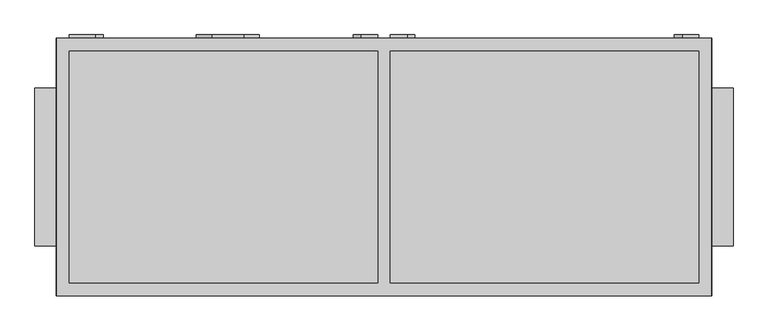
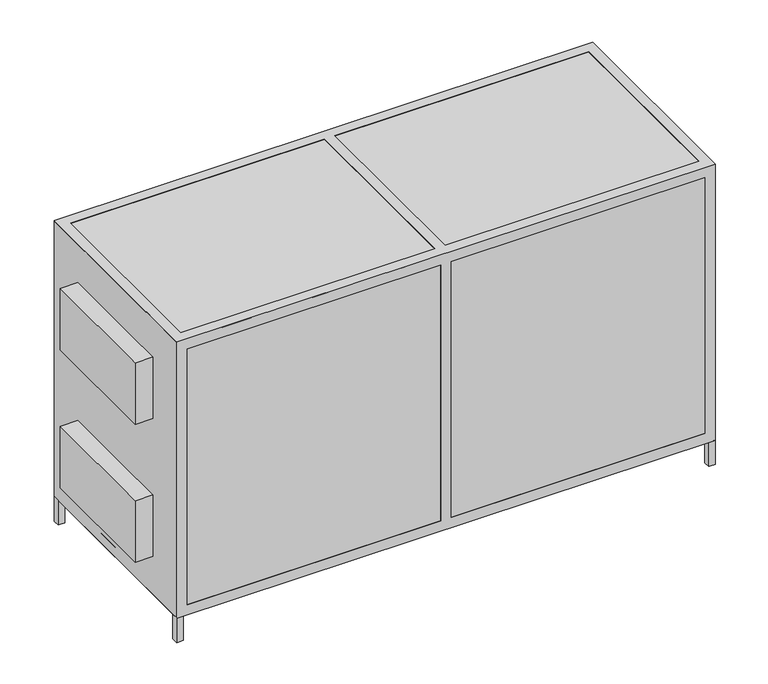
"""IFC4 building model written with IfcOpenShell, lengths in millimetres: proxy geometry, AVS 2200...3800-S-RC(RG)-L : AVS 2200-S-RC-L."""

from ifc_helpers import new_model, si_unit, point, frame, frame_2d, origin, origin_with_axes, place, context, project, spatial, polyline, circle_curve, trimmed, segment, composite_curve, outline, extrude, faceted_brep, source, transform, mapped, element, save


def mechanical_equipment_792a2d4f(model_context):
    return source(origin(), model_context, "Body", "SolidModel", [
        extrude(outline(polyline([(1010.0, 407.0), (1035.0, 407.0), (1035.0, 382.0), (1010.0, 382.0), (1010.0, 407.0)])), origin_with_axes(), (0.0, 0.0, 1.0), 100.0),
        extrude(outline(polyline([(1010.0, -407.0), (1010.0, -382.0), (1035.0, -382.0), (1035.0, -407.0), (1010.0, -407.0)])), origin_with_axes(), (0.0, 0.0, 1.0), 100.0),
        extrude(outline(polyline([(-1035.0, 382.0), (-1035.0, 407.0), (-1010.0, 407.0), (-1010.0, 382.0), (-1035.0, 382.0)])), origin_with_axes(), (0.0, 0.0, 1.0), 100.0),
        extrude(outline(polyline([(-1035.0, -382.0), (-1010.0, -382.0), (-1010.0, -407.0), (-1035.0, -407.0), (-1035.0, -382.0)])), origin_with_axes(), (0.0, 0.0, 1.0), 100.0),
        faceted_brep([(1034.0, 408.0, 1222.0), (-1034.0, 408.0, 1222.0), (-1034.0, -408.0, 1222.0), (1034.0, -408.0, 1222.0), (-995.0, 367.0, 1222.0), (-20.0, 367.0, 1222.0), (-20.0, -367.0, 1222.0), (-995.0, -367.0, 1222.0), (995.0, 367.0, 1222.0), (995.0, -367.0, 1222.0), (20.0, -367.0, 1222.0), (20.0, 367.0, 1222.0), (1034.0, 408.0, 99.0), (1034.0, -408.0, 99.0), (-1034.0, -408.0, 99.0), (-1034.0, 408.0, 99.0), (-20.0, 367.0, 99.0), (-995.0, 367.0, 99.0), (-995.0, -367.0, 99.0), (-20.0, -367.0, 99.0), (995.0, -367.0, 99.0), (995.0, 367.0, 99.0), (20.0, 367.0, 99.0), (20.0, -367.0, 99.0), (-20.0, 408.0, 1181.0), (-995.0, 408.0, 1181.0), (-995.0, 408.0, 140.0), (-20.0, 408.0, 140.0), (995.0, 408.0, 140.0), (995.0, 408.0, 1181.0), (20.0, 408.0, 1181.0), (20.0, 408.0, 140.0), (-1034.0, -367.0, 1181.0), (-1034.0, -367.0, 140.0), (-1034.0, 367.0, 140.0), (-1034.0, 367.0, 1181.0), (-995.0, -408.0, 1181.0), (-20.0, -408.0, 1181.0), (-20.0, -408.0, 140.0), (-995.0, -408.0, 140.0), (995.0, -408.0, 1181.0), (995.0, -408.0, 140.0), (20.0, -408.0, 140.0), (20.0, -408.0, 1181.0), (1034.0, -367.0, 140.0), (1034.0, -367.0, 1181.0), (1034.0, 367.0, 1181.0), (1034.0, 367.0, 140.0), (-995.0, 367.0, 1181.0), (-20.0, 367.0, 1181.0), (-20.0, 367.0, 140.0), (-995.0, 367.0, 140.0), (-20.0, -367.0, 1181.0), (-995.0, -367.0, 1181.0), (-995.0, -367.0, 140.0), (-20.0, -367.0, 140.0), (995.0, 367.0, 1181.0), (995.0, -367.0, 1181.0), (995.0, -367.0, 140.0), (995.0, 367.0, 140.0), (20.0, 367.0, 1181.0), (20.0, -367.0, 1181.0), (20.0, -367.0, 140.0), (20.0, 367.0, 140.0)], [[[0, 1, 2, 3], [4, 5, 6, 7], [8, 9, 10, 11]], [[12, 13, 14, 15], [16, 17, 18, 19], [20, 21, 22, 23]], [[1, 0, 12, 15], [24, 25, 26, 27], [28, 29, 30, 31]], [[2, 1, 15, 14], [32, 33, 34, 35]], [[3, 2, 14, 13], [36, 37, 38, 39], [40, 41, 42, 43]], [[0, 3, 13, 12], [44, 45, 46, 47]], [[5, 4, 48, 49]], [[17, 16, 50, 51]], [[7, 6, 52, 53]], [[19, 18, 54, 55]], [[9, 8, 56, 57]], [[21, 20, 58, 59]], [[40, 57, 58, 41]], [[56, 29, 28, 59]], [[35, 48, 53, 32]], [[45, 57, 56, 46]], [[49, 60, 61, 52]], [[51, 34, 33, 54]], [[47, 59, 58, 44]], [[55, 62, 63, 50]], [[36, 53, 52, 37]], [[24, 49, 48, 25]], [[54, 39, 38, 55]], [[50, 27, 26, 51]], [[32, 53, 54, 33]], [[52, 61, 62, 55]], [[44, 58, 57, 45]], [[48, 35, 34, 51]], [[60, 49, 50, 63]], [[59, 47, 46, 56]], [[4, 7, 53, 48]], [[18, 17, 51, 54]], [[53, 36, 39, 54]], [[25, 48, 51, 26]], [[6, 5, 49, 52]], [[16, 19, 55, 50]], [[37, 52, 55, 38]], [[49, 24, 27, 50]], [[8, 11, 60, 56]], [[22, 21, 59, 63]], [[11, 10, 61, 60]], [[23, 22, 63, 62]], [[30, 60, 63, 31]], [[61, 43, 42, 62]], [[10, 9, 57, 61]], [[20, 23, 62, 58]], [[57, 40, 43, 61]], [[29, 56, 60, 30]], [[41, 58, 62, 42]], [[59, 28, 31, 63]]]),
        extrude(outline(polyline([(-1035.0, 407.0), (1035.0, 407.0), (1035.0, -407.0), (-1035.0, -407.0), (-1035.0, 407.0)])), frame((0.0, 0.0, 100.0), z_axis=(0.0, 0.0, 1.0), x_axis=(1.0, 0.0, 0.0)), (0.0, 0.0, 1.0), 1121.0),
        extrude(outline(composite_curve([segment(polyline([(965.75, -912.2895396), (965.75, -995.0), (915.75, -995.0), (915.75, -912.2895396)]), True, "CONTINUOUS"), segment(trimmed(circle_curve(frame_2d((940.75, -912.2895396)), 25.0), [point((915.75, -912.2895396))], [point((965.75, -912.2895396))], False, "CARTESIAN"), True, "CONTINUOUS")], self_intersect=False)), frame((0.0, 407.0, 0.0), z_axis=(0.0, 1.0, 0.0), x_axis=(0.0, 0.0, 1.0)), (0.0, 0.0, 1.0), 11.0),
        extrude(outline(composite_curve([segment(polyline([(405.25, -912.2895396), (405.25, -995.0), (355.25, -995.0), (355.25, -912.2895396)]), True, "CONTINUOUS"), segment(trimmed(circle_curve(frame_2d((380.25, -912.2895396)), 25.0), [point((355.25, -912.2895396))], [point((405.25, -912.2895396))], False, "CARTESIAN"), True, "CONTINUOUS")], self_intersect=False)), frame((0.0, 407.0, 0.0), z_axis=(0.0, 1.0, 0.0), x_axis=(0.0, 0.0, 1.0)), (0.0, 0.0, 1.0), 11.0),
        extrude(outline(composite_curve([segment(trimmed(circle_curve(frame_2d((870.75, -72.7104604)), 25.0), [point((895.75, -72.7104604))], [point((845.75, -72.7104604))], False, "CARTESIAN"), True, "CONTINUOUS"), segment(polyline([(845.75, -72.7104604), (845.75, -20.0), (895.75, -20.0), (895.75, -72.7104604)]), True, "CONTINUOUS")], self_intersect=False)), frame((0.0, 407.0, 0.0), z_axis=(0.0, 1.0, 0.0), x_axis=(0.0, 0.0, 1.0)), (0.0, 0.0, 1.0), 11.0),
        extrude(outline(composite_curve([segment(polyline([(425.25, -72.7104604), (425.25, -20.0), (475.25, -20.0), (475.25, -72.7104604)]), True, "CONTINUOUS"), segment(trimmed(circle_curve(frame_2d((450.25, -72.7104604)), 25.0), [point((475.25, -72.7104604))], [point((425.25, -72.7104604))], False, "CARTESIAN"), True, "CONTINUOUS")], self_intersect=False)), frame((0.0, 407.0, 0.0), z_axis=(0.0, 1.0, 0.0), x_axis=(0.0, 0.0, 1.0)), (0.0, 0.0, 1.0), 11.0),
        extrude(outline(composite_curve([segment(trimmed(circle_curve(frame_2d((1090.75, 942.2895396)), 25.0), [point((1115.75, 942.2895396))], [point((1065.75, 942.2895396))], False, "CARTESIAN"), True, "CONTINUOUS"), segment(polyline([(1065.75, 942.2895396), (1065.75, 995.0), (1115.75, 995.0), (1115.75, 942.2895396)]), True, "CONTINUOUS")], self_intersect=False)), frame((0.0, 407.0, 0.0), z_axis=(0.0, 1.0, 0.0), x_axis=(0.0, 0.0, 1.0)), (0.0, 0.0, 1.0), 11.0),
        extrude(outline(composite_curve([segment(polyline([(205.25, 942.2895396), (205.25, 995.0), (255.25, 995.0), (255.25, 942.2895396)]), True, "CONTINUOUS"), segment(trimmed(circle_curve(frame_2d((230.25, 942.2895396)), 25.0), [point((255.25, 942.2895396))], [point((205.25, 942.2895396))], False, "CARTESIAN"), True, "CONTINUOUS")], self_intersect=False)), frame((0.0, 407.0, 0.0), z_axis=(0.0, 1.0, 0.0), x_axis=(0.0, 0.0, 1.0)), (0.0, 0.0, 1.0), 11.0),
        extrude(outline(composite_curve([segment(polyline([(1015.75, 72.7104604), (1015.75, 20.0), (965.75, 20.0), (965.75, 72.7104604)]), True, "CONTINUOUS"), segment(trimmed(circle_curve(frame_2d((990.75, 72.7104604)), 25.0), [point((965.75, 72.7104604))], [point((1015.75, 72.7104604))], False, "CARTESIAN"), True, "CONTINUOUS")], self_intersect=False)), frame((0.0, 407.0, 0.0), z_axis=(0.0, 1.0, 0.0), x_axis=(0.0, 0.0, 1.0)), (0.0, 0.0, 1.0), 11.0),
        extrude(outline(composite_curve([segment(trimmed(circle_curve(frame_2d((330.25, 72.7104604)), 25.0), [point((305.25, 72.7104604))], [point((355.25, 72.7104604))], False, "CARTESIAN"), True, "CONTINUOUS"), segment(polyline([(355.25, 72.7104604), (355.25, 20.0), (305.25, 20.0), (305.25, 72.7104604)]), True, "CONTINUOUS")], self_intersect=False)), frame((0.0, 407.0, 0.0), z_axis=(0.0, 1.0, 0.0), x_axis=(0.0, 0.0, 1.0)), (0.0, 0.0, 1.0), 11.0),
        extrude(outline(composite_curve([segment(polyline([(1064.7031077, -443.4249776), (1064.7031077, -543.4249776)]), True, "CONTINUOUS"), segment(trimmed(circle_curve(frame_2d((1014.7031077, -543.4249776)), 50.0), [point((1064.7031077, -543.4249776))], [point((964.7031077, -543.4249776))], False, "CARTESIAN"), True, "CONTINUOUS"), segment(polyline([(964.7031077, -543.4249776), (964.7031077, -443.4249776)]), True, "CONTINUOUS"), segment(trimmed(circle_curve(frame_2d((1014.7031077, -443.4249776)), 50.0), [point((964.7031077, -443.4249776))], [point((1064.7031077, -443.4249776))], False, "CARTESIAN"), True, "CONTINUOUS")], self_intersect=False)), frame((0.0, 407.0, 0.0), z_axis=(0.0, 1.0, 0.0), x_axis=(0.0, 0.0, 1.0)), (0.0, 0.0, 1.0), 11.0),
        extrude(outline(polyline([(-1103.0, -250.0), (-1103.0, 250.0), (-1035.0, 250.0), (-1035.0, -250.0), (-1103.0, -250.0)])), frame((0.0, 0.0, 815.75), z_axis=(0.0, 0.0, 1.0), x_axis=(1.0, 0.0, 0.0)), (0.0, 0.0, 1.0), 250.0),
        extrude(outline(polyline([(-1103.0, -250.0), (-1103.0, 250.0), (-1035.0, 250.0), (-1035.0, -250.0), (-1103.0, -250.0)])), frame((0.0, 0.0, 255.25), z_axis=(0.0, 0.0, 1.0), x_axis=(1.0, 0.0, 0.0)), (0.0, 0.0, 1.0), 250.0),
        extrude(outline(polyline([(1103.0, 250.0), (1103.0, -250.0), (1035.0, -250.0), (1035.0, 250.0), (1103.0, 250.0)])), frame((0.0, 0.0, 815.75), z_axis=(0.0, 0.0, 1.0), x_axis=(1.0, 0.0, 0.0)), (0.0, 0.0, 1.0), 250.0),
        extrude(outline(polyline([(1103.0, 250.0), (1103.0, -250.0), (1035.0, -250.0), (1035.0, 250.0), (1103.0, 250.0)])), frame((0.0, 0.0, 255.25), z_axis=(0.0, 0.0, 1.0), x_axis=(1.0, 0.0, 0.0)), (0.0, 0.0, 1.0), 250.0),
    ])


if __name__ == "__main__":
    model = new_model("IFC4")
    model_context = context("Model", 3, world=origin())
    ifc_project = project(units=[si_unit("LENGTHUNIT", "METRE", prefix="MILLI")], contexts=[model_context])
    site = spatial("IfcSite", under=ifc_project)
    building = spatial("IfcBuilding", under=site)
    placement = place(None, origin())
    mechanical_equipment_shape = mechanical_equipment_792a2d4f(model_context)
    element("IfcBuildingElementProxy", 1, Name="AVS 2200...3800-S-RC(RG)-L : AVS 2200-S-RC-L", ObjectType="AVS 2200...3800-S-RC(RG)-L : AVS 2200-S-RC-L", at=placement, inside=building, context=model_context, shape_type="MappedRepresentation", body=[
        mapped(mechanical_equipment_shape, transform((0.0, 0.0, 0.0), x_axis=(1.0, 0.0, 0.0), y_axis=(0.0, 1.0, 0.0), z_axis=(0.0, 0.0, 1.0))),
    ])
    save(model, "model.ifc")
